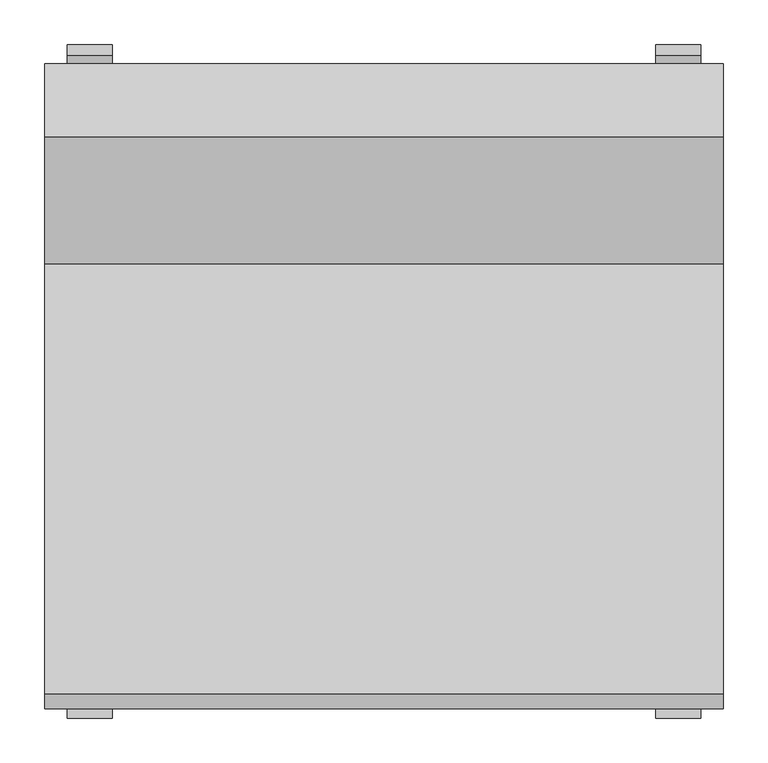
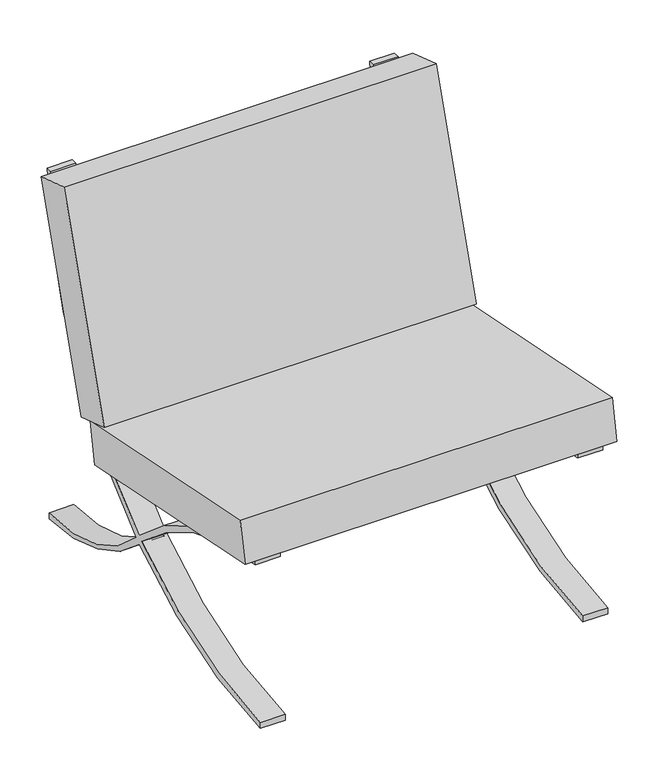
"""IFC4 building model written with IfcOpenShell, lengths in millimetres: furniture geometry, Armchair - Barcelona : Armchair - Barcelona."""

import ifcopenshell
import ifcopenshell.guid

model = None  # the IFC model being written
_history = None  # IfcOwnerHistory: only IFC2X3 demands one
_inside = {}  # id of a spatial element -> (the spatial element, [elements in it])
_under = {}  # id of a project, library or spatial element -> (it, [spatial elements below it])
_declared = {}  # id of a project -> (the project, [libraries it declares])
_typed = {}  # id of a type object -> (the type object, [elements of that type])
_made_of = {}  # id of a material, layer set ... -> (it, [elements and type objects made of it])


def new_model(schema):
    """Start an empty IFC model of exactly this schema.

    Asked for "IFC4X3", IfcOpenShell would pick the latest addendum, in which some entities
    have other attributes; the version numbers below select the first issue.
    IFC2X3 requires an IfcOwnerHistory on every rooted entity: one is made here for all.
    """
    global model, _history
    if schema == "IFC4X3":
        model = ifcopenshell.file(schema_version=(4, 3, 0, 0))
    else:
        model = ifcopenshell.file(schema=schema)
    _inside.clear()
    _under.clear()
    _declared.clear()
    _typed.clear()
    _made_of.clear()
    _history = None
    if model.schema == "IFC2X3":
        org = make("IfcOrganization", Name="unknown")
        user = make(
            "IfcPersonAndOrganization",
            ThePerson=make("IfcPerson", FamilyName="unknown"),
            TheOrganization=org,
        )
        app = make(
            "IfcApplication",
            ApplicationDeveloper=org,
            Version="unknown",
            ApplicationFullName="unknown",
            ApplicationIdentifier="unknown",
        )
        _history = make(
            "IfcOwnerHistory",
            OwningUser=user,
            OwningApplication=app,
            ChangeAction="ADDED",
            CreationDate=0,
        )
    return model


def make(cls, **values):
    """One entity of the class cls with the attributes given. An attribute that is None is left unset."""
    return model.create_entity(
        cls, **{name: value for name, value in values.items() if value is not None}
    )


def rooted(cls, **values):
    """An entity with a GlobalId (a new one), such as an element, a storey or a relation."""
    return make(cls, GlobalId=ifcopenshell.guid.new(), OwnerHistory=_history, **values)


def si_unit(unit_type, name, prefix=None):
    """IfcSIUnit, for example si_unit("LENGTHUNIT", "METRE", prefix="MILLI")."""
    return make("IfcSIUnit", UnitType=unit_type, Prefix=prefix, Name=name)


def assignment(units):
    """IfcUnitAssignment: the units of a project."""
    return None if units is None else make("IfcUnitAssignment", Units=units)


def point(xyz):
    """IfcCartesianPoint."""
    return None if xyz is None else make("IfcCartesianPoint", Coordinates=xyz)


def direction(xyz):
    """IfcDirection."""
    return None if xyz is None else make("IfcDirection", DirectionRatios=xyz)


def frame(location, z_axis=None, x_axis=None):
    """IfcAxis2Placement3D, a coordinate frame: its origin and axes. An axis left out is left unset."""
    return make(
        "IfcAxis2Placement3D",
        Location=point(location),
        Axis=direction(z_axis),
        RefDirection=direction(x_axis),
    )


def frame_2d(location, x_axis=None):
    """IfcAxis2Placement2D, a coordinate frame in the plane: its origin and x axis."""
    return make(
        "IfcAxis2Placement2D", Location=point(location), RefDirection=direction(x_axis)
    )


def origin():
    """The frame at (0, 0, 0) with its axes left unset."""
    return frame((0.0, 0.0, 0.0))


def place(relative_to, where):
    """IfcLocalPlacement: puts the frame where relative to a parent placement (None: the world)."""
    return make(
        "IfcLocalPlacement", PlacementRelTo=relative_to, RelativePlacement=where
    )


def context(
    kind, dimensions, precision=None, world=None, true_north=None, identifier=None
):
    """IfcGeometricRepresentationContext, for example the 3D "Model" context."""
    return make(
        "IfcGeometricRepresentationContext",
        ContextIdentifier=identifier,
        ContextType=kind,
        CoordinateSpaceDimension=dimensions,
        Precision=precision,
        WorldCoordinateSystem=world,
        TrueNorth=true_north,
    )


def project(units=None, contexts=None):
    """IfcProject with its units and contexts."""
    return rooted(
        "IfcProject",
        Name="project",
        RepresentationContexts=contexts,
        UnitsInContext=assignment(units),
    )


def spatial(cls, under=None, at=None, **own):
    """A site, building, storey or space (cls), placed at a placement, below another one or the project."""
    s = rooted(cls, ObjectPlacement=at, **own)
    if under is not None:
        _under.setdefault(under.id(), (under, []))[1].append(s)
    return s


def polyline(points):
    """IfcPolyline through the points."""
    return make("IfcPolyline", Points=[point(p) for p in points])


def circle_curve(where, radius):
    """IfcCircle in the frame where."""
    return make("IfcCircle", Position=where, Radius=radius)


def trimmed(basis, trim1, trim2, sense, master):
    """IfcTrimmedCurve: the piece of a basis curve between two trims."""
    return make(
        "IfcTrimmedCurve",
        BasisCurve=basis,
        Trim1=trim1,
        Trim2=trim2,
        SenseAgreement=sense,
        MasterRepresentation=master,
    )


def segment(curve, same_sense, transition):
    """IfcCompositeCurveSegment."""
    return make(
        "IfcCompositeCurveSegment",
        Transition=transition,
        SameSense=same_sense,
        ParentCurve=curve,
    )


def composite_curve(segments, self_intersect=None):
    """IfcCompositeCurve: segments joined end to end."""
    return make("IfcCompositeCurve", Segments=segments, SelfIntersect=self_intersect)


def outline(outer, holes=None, kind="AREA"):
    """IfcArbitraryClosedProfileDef: a profile drawn as a closed curve; with holes, ...WithVoids."""
    if holes is None:
        return make("IfcArbitraryClosedProfileDef", ProfileType=kind, OuterCurve=outer)
    return make(
        "IfcArbitraryProfileDefWithVoids",
        ProfileType=kind,
        OuterCurve=outer,
        InnerCurves=holes,
    )


def extrude(swept, where, along, depth):
    """IfcExtrudedAreaSolid: the profile swept, set in the frame where, extruded along a direction by depth."""
    return make(
        "IfcExtrudedAreaSolid",
        SweptArea=swept,
        Position=where,
        ExtrudedDirection=direction(along),
        Depth=depth,
    )


def shape(context_of_items, identifier, shape_type, items):
    """IfcShapeRepresentation: the items that make up one representation, for example the "Body"."""
    return make(
        "IfcShapeRepresentation",
        ContextOfItems=context_of_items,
        RepresentationIdentifier=identifier,
        RepresentationType=shape_type,
        Items=items,
    )


def source(mapping_origin, context_of_items, identifier, shape_type, items):
    """IfcRepresentationMap: a shape defined once, which mapped items show again and again."""
    return make(
        "IfcRepresentationMap",
        MappingOrigin=mapping_origin,
        MappedRepresentation=shape(context_of_items, identifier, shape_type, items),
    )


def transform(
    local_origin,
    x_axis=None,
    y_axis=None,
    z_axis=None,
    scale=None,
    scale2=None,
    scale3=None,
    uniform=True,
):
    """IfcCartesianTransformationOperator3D, or its non-uniform kind. x_axis, y_axis, z_axis: its Axis1, 2, 3."""
    if uniform:
        return make(
            "IfcCartesianTransformationOperator3D",
            Axis1=direction(x_axis),
            Axis2=direction(y_axis),
            LocalOrigin=point(local_origin),
            Scale=scale,
            Axis3=direction(z_axis),
        )
    return make(
        "IfcCartesianTransformationOperator3DnonUniform",
        Axis1=direction(x_axis),
        Axis2=direction(y_axis),
        LocalOrigin=point(local_origin),
        Scale=scale,
        Axis3=direction(z_axis),
        Scale2=scale2,
        Scale3=scale3,
    )


def mapped(mapping_source, mapping_target):
    """IfcMappedItem: shows the shape of a source again, moved by a transform."""
    return make(
        "IfcMappedItem", MappingSource=mapping_source, MappingTarget=mapping_target
    )


def made_of(thing, what):
    """Note that an element or type object is made of a material, layer set ...; save() writes the relation."""
    if what is not None:
        _made_of.setdefault(what.id(), (what, []))[1].append(thing)
    return thing


def element(
    cls,
    number,
    at=None,
    inside=None,
    cuts=None,
    type_object=None,
    material=None,
    context=None,
    identifier="Body",
    shape_type=None,
    held_by="IfcProductDefinitionShape",
    body=None,
    shapes=None,
    **own,
):
    """One element of the class cls, such as IfcWall. Its Tag is "e" and its number.

    at: its placement. inside: the storey or other place that contains it. cuts: it is an
    opening in that element (IfcRelVoidsElement). A single representation is given by context,
    identifier, shape_type and body (its items); several are given by shapes. held_by: the class
    of the entity that holds the representations. save() writes the other relations.
    """
    e = rooted(cls, Tag="e%d" % number, ObjectPlacement=at, **own)
    if body is not None:
        shapes = [shape(context, identifier, shape_type, body)]
    if shapes is not None:
        e.Representation = make(held_by, Representations=shapes)
    if inside is not None:
        _inside.setdefault(inside.id(), (inside, []))[1].append(e)
    if cuts is not None:
        rooted(
            "IfcRelVoidsElement", RelatingBuildingElement=cuts, RelatedOpeningElement=e
        )
    if type_object is not None:
        _typed.setdefault(type_object.id(), (type_object, []))[1].append(e)
    return made_of(e, material)


def aggregate(whole, parts):
    """IfcRelAggregates: a whole, such as a stair, and the parts it consists of."""
    return rooted("IfcRelAggregates", RelatingObject=whole, RelatedObjects=parts)


def save(model, path):
    """Write the relations noted so far, then the file.

    IfcRelAggregates (storeys below a building ...), IfcRelContainedInSpatialStructure (elements
    in a storey), IfcRelDefinesByType, IfcRelAssociatesMaterial and IfcRelDeclares: one each for
    every whole, place, type object, material and project.
    """
    for whole, parts in _under.values():
        aggregate(whole, parts)
    for where, things in _inside.values():
        rooted(
            "IfcRelContainedInSpatialStructure",
            RelatedElements=things,
            RelatingStructure=where,
        )
    for kind, things in _typed.values():
        rooted("IfcRelDefinesByType", RelatedObjects=things, RelatingType=kind)
    for what, things in _made_of.values():
        rooted("IfcRelAssociatesMaterial", RelatedObjects=things, RelatingMaterial=what)
    for by, libraries in _declared.values():
        rooted("IfcRelDeclares", RelatingContext=by, RelatedDefinitions=libraries)
    model.write(path)


def furniture_c7f23c1d(model_context):
    return source(origin(), model_context, "Body", "SweptSolid", [
        extrude(outline(polyline([(-200.2082421, 325.5367165), (-282.0506297, 352.3915975), (-139.5075454, 786.803049), (-57.6651413, 759.9481625), (-200.2082421, 325.5367165)])), frame((-381.0, 0.0, 0.0), z_axis=(1.0, 0.0, 0.0), x_axis=(0.0, 1.0, 0.0)), (0.0, 0.0, 1.0), 762.0),
        extrude(outline(polyline([(-232.1325443, 335.2988837), (-249.1568635, 250.8623214), (-781.5604531, 358.2068965), (-764.5361298, 442.643479), (-232.1325443, 335.2988837)])), frame((-381.0, 0.0, 0.0), z_axis=(1.0, 0.0, 0.0), x_axis=(0.0, 1.0, 0.0)), (0.0, 0.0, 1.0), 762.0),
        extrude(outline(composite_curve([segment(trimmed(circle_curve(frame_2d((-808.2526105, 772.2034703)), 759.6732642), [point((-361.5389651, 157.7521807))], [point((-48.748825, 756.1576576))], True, "CARTESIAN"), True, "CONTINUOUS"), segment(polyline([(-48.748825, 756.1576576), (-36.0488008, 756.1576576)]), True, "CONTINUOUS"), segment(trimmed(circle_curve(frame_2d((-801.508494, 765.4563497)), 765.5161707), [point((-36.0488008, 756.1576576))], [point((-351.310181, 146.3146159))], False, "CARTESIAN"), True, "CONTINUOUS"), segment(trimmed(circle_curve(frame_2d((-46.5400313, 427.0280667)), 414.3487488), [point((-351.310181, 146.3146159))], [point((-42.3362567, 12.7006432))], True, "CARTESIAN"), True, "CONTINUOUS"), segment(polyline([(-42.3362567, 12.7006432), (-42.3362567, 0.0)]), True, "CONTINUOUS"), segment(trimmed(circle_curve(frame_2d((-25.8877398, 476.7846332)), 477.0682762), [point((-42.3362567, 0.0))], [point((-362.2691896, 138.4923626))], False, "CARTESIAN"), True, "CONTINUOUS"), segment(trimmed(circle_curve(frame_2d((-801.508494, 765.4563497)), 765.5161707), [point((-362.2691896, 138.4923626))], [point((-792.2068245, -0.0033074))], False, "CARTESIAN"), True, "CONTINUOUS"), segment(polyline([(-792.2068245, -0.0033074), (-792.2068245, 12.6996843)]), True, "CONTINUOUS"), segment(trimmed(circle_curve(frame_2d((-808.2526105, 772.2034703)), 759.6732642), [point((-792.2068245, 12.6996843))], [point((-371.8514883, 150.3855478))], True, "CARTESIAN"), True, "CONTINUOUS"), segment(trimmed(circle_curve(frame_2d((-855.5560766, -339.4403825)), 688.4036394), [point((-371.8514883, 150.3855478))], [point((-774.6808139, 344.1960432))], True, "CARTESIAN"), True, "CONTINUOUS"), segment(polyline([(-774.6808139, 344.1960432), (-774.6808139, 356.6175971)]), True, "CONTINUOUS"), segment(trimmed(circle_curve(frame_2d((-856.4111292, -341.759409)), 703.1431484), [point((-774.6808139, 356.6175971))], [point((-361.5389651, 157.7521807))], False, "CARTESIAN"), True, "CONTINUOUS")], self_intersect=False)), frame((-355.6, 0.0, 0.0), z_axis=(1.0, 0.0, 0.0), x_axis=(0.0, 1.0, 0.0)), (0.0, 0.0, 1.0), 50.8),
        extrude(outline(composite_curve([segment(trimmed(circle_curve(frame_2d((-808.2526105, 772.2034703)), 759.6732642), [point((-361.5389651, 157.7521807))], [point((-48.748825, 756.1576576))], True, "CARTESIAN"), True, "CONTINUOUS"), segment(polyline([(-48.748825, 756.1576576), (-36.0488008, 756.1576576)]), True, "CONTINUOUS"), segment(trimmed(circle_curve(frame_2d((-801.508494, 765.4563497)), 765.5161707), [point((-36.0488008, 756.1576576))], [point((-351.310181, 146.3146159))], False, "CARTESIAN"), True, "CONTINUOUS"), segment(trimmed(circle_curve(frame_2d((-46.5400313, 427.0280667)), 414.3487488), [point((-351.310181, 146.3146159))], [point((-42.3362567, 12.7006432))], True, "CARTESIAN"), True, "CONTINUOUS"), segment(polyline([(-42.3362567, 12.7006432), (-42.3362567, 0.0)]), True, "CONTINUOUS"), segment(trimmed(circle_curve(frame_2d((-25.8877398, 476.7846332)), 477.0682762), [point((-42.3362567, 0.0))], [point((-362.2691896, 138.4923626))], False, "CARTESIAN"), True, "CONTINUOUS"), segment(trimmed(circle_curve(frame_2d((-801.508494, 765.4563497)), 765.5161707), [point((-362.2691896, 138.4923626))], [point((-792.2068245, -0.0033074))], False, "CARTESIAN"), True, "CONTINUOUS"), segment(polyline([(-792.2068245, -0.0033074), (-792.2068245, 12.6996843)]), True, "CONTINUOUS"), segment(trimmed(circle_curve(frame_2d((-808.2526105, 772.2034703)), 759.6732642), [point((-792.2068245, 12.6996843))], [point((-371.8514883, 150.3855478))], True, "CARTESIAN"), True, "CONTINUOUS"), segment(trimmed(circle_curve(frame_2d((-855.5560766, -339.4403825)), 688.4036394), [point((-371.8514883, 150.3855478))], [point((-774.6808139, 344.1960432))], True, "CARTESIAN"), True, "CONTINUOUS"), segment(polyline([(-774.6808139, 344.1960432), (-774.6808139, 356.6175971)]), True, "CONTINUOUS"), segment(trimmed(circle_curve(frame_2d((-856.4111292, -341.759409)), 703.1431484), [point((-774.6808139, 356.6175971))], [point((-361.5389651, 157.7521807))], False, "CARTESIAN"), True, "CONTINUOUS")], self_intersect=False)), frame((304.8, 0.0, 0.0), z_axis=(1.0, 0.0, 0.0), x_axis=(0.0, 1.0, 0.0)), (0.0, 0.0, 1.0), 50.8),
    ])


if __name__ == "__main__":
    model = new_model("IFC4")
    model_context = context("Model", 3, world=origin())
    ifc_project = project(units=[si_unit("LENGTHUNIT", "METRE", prefix="MILLI")], contexts=[model_context])
    site = spatial("IfcSite", under=ifc_project)
    building = spatial("IfcBuilding", under=site)
    placement = place(None, origin())
    furniture_shape = furniture_c7f23c1d(model_context)
    element("IfcFurniture", 1, ObjectType="Armchair - Barcelona : Armchair - Barcelona", at=placement, inside=building, context=model_context, shape_type="MappedRepresentation", body=[
        mapped(furniture_shape, transform((0.0, 0.0, 0.0), x_axis=(1.0, 0.0, 0.0), y_axis=(0.0, 1.0, 0.0), z_axis=(0.0, 0.0, 1.0))),
    ])
    save(model, "model.ifc")
